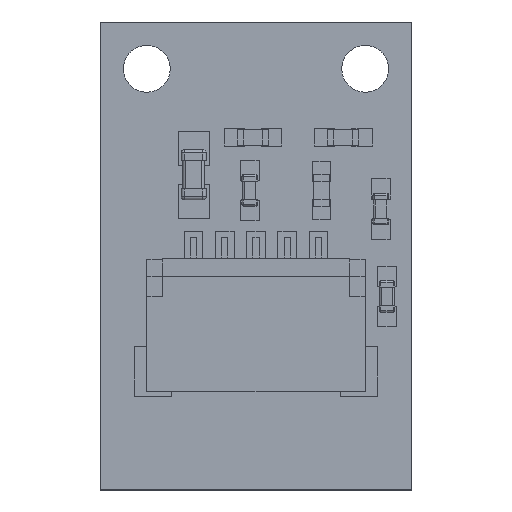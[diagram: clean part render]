
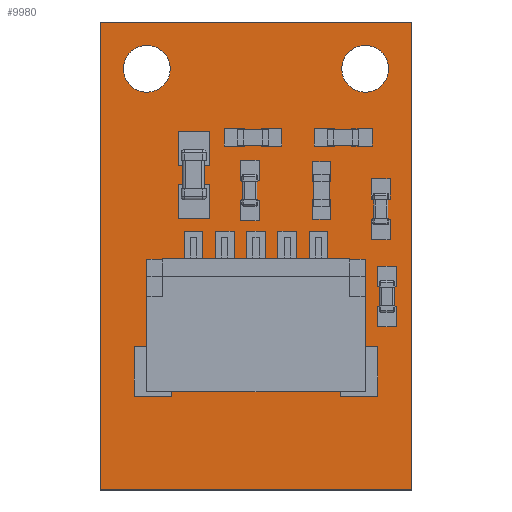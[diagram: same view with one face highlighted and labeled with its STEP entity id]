
A CAD part, top view. The second image highlights one B-rep face of the part: STEP entity #9980.
In plain terms, the highlighted planar face has unit normal (0, 0, 1).
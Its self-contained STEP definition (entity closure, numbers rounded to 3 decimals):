
#9504 = VERTEX_POINT('',#9505);
#9505 = CARTESIAN_POINT('',(15.,5.,0.6));
#9512 = PLANE('',#9513);
#9513 = AXIS2_PLACEMENT_3D('',#9514,#9515,#9516);
#9514 = CARTESIAN_POINT('',(15.,5.,0.));
#9515 = DIRECTION('',(0.,1.,0.));
#9516 = DIRECTION('',(1.,0.,0.));
#9524 = PLANE('',#9525);
#9525 = AXIS2_PLACEMENT_3D('',#9526,#9527,#9528);
#9526 = CARTESIAN_POINT('',(15.,20.,0.));
#9527 = DIRECTION('',(1.,0.,0.));
#9528 = DIRECTION('',(0.,-1.,0.));
#9536 = EDGE_CURVE('',#9504,#9537,#9539,.T.);
#9537 = VERTEX_POINT('',#9538);
#9538 = CARTESIAN_POINT('',(25.,5.,0.6));
#9539 = SURFACE_CURVE('',#9540,(#9544,#9551),.PCURVE_S1.);
#9540 = LINE('',#9541,#9542);
#9541 = CARTESIAN_POINT('',(15.,5.,0.6));
#9542 = VECTOR('',#9543,1.);
#9543 = DIRECTION('',(1.,0.,0.));
#9544 = PCURVE('',#9512,#9545);
#9545 = DEFINITIONAL_REPRESENTATION('',(#9546),#9550);
#9546 = LINE('',#9547,#9548);
#9547 = CARTESIAN_POINT('',(0.,-0.6));
#9548 = VECTOR('',#9549,1.);
#9549 = DIRECTION('',(1.,0.));
#9550 = ( GEOMETRIC_REPRESENTATION_CONTEXT(2) 
PARAMETRIC_REPRESENTATION_CONTEXT() REPRESENTATION_CONTEXT('2D SPACE',''
  ) );
#9551 = PCURVE('',#9552,#9557);
#9552 = PLANE('',#9553);
#9553 = AXIS2_PLACEMENT_3D('',#9554,#9555,#9556);
#9554 = CARTESIAN_POINT('',(20.,12.5,0.6));
#9555 = DIRECTION('',(0.,0.,1.));
#9556 = DIRECTION('',(1.,0.,-0.));
#9557 = DEFINITIONAL_REPRESENTATION('',(#9558),#9562);
#9558 = LINE('',#9559,#9560);
#9559 = CARTESIAN_POINT('',(-5.,-7.5));
#9560 = VECTOR('',#9561,1.);
#9561 = DIRECTION('',(1.,0.));
#9562 = ( GEOMETRIC_REPRESENTATION_CONTEXT(2) 
PARAMETRIC_REPRESENTATION_CONTEXT() REPRESENTATION_CONTEXT('2D SPACE',''
  ) );
#9580 = PLANE('',#9581);
#9581 = AXIS2_PLACEMENT_3D('',#9582,#9583,#9584);
#9582 = CARTESIAN_POINT('',(25.,5.,0.));
#9583 = DIRECTION('',(-1.,0.,0.));
#9584 = DIRECTION('',(0.,1.,0.));
#9624 = VERTEX_POINT('',#9625);
#9625 = CARTESIAN_POINT('',(15.,20.,0.6));
#9639 = PLANE('',#9640);
#9640 = AXIS2_PLACEMENT_3D('',#9641,#9642,#9643);
#9641 = CARTESIAN_POINT('',(25.,20.,0.));
#9642 = DIRECTION('',(0.,-1.,0.));
#9643 = DIRECTION('',(-1.,0.,0.));
#9651 = EDGE_CURVE('',#9624,#9504,#9652,.T.);
#9652 = SURFACE_CURVE('',#9653,(#9657,#9664),.PCURVE_S1.);
#9653 = LINE('',#9654,#9655);
#9654 = CARTESIAN_POINT('',(15.,20.,0.6));
#9655 = VECTOR('',#9656,1.);
#9656 = DIRECTION('',(0.,-1.,0.));
#9657 = PCURVE('',#9524,#9658);
#9658 = DEFINITIONAL_REPRESENTATION('',(#9659),#9663);
#9659 = LINE('',#9660,#9661);
#9660 = CARTESIAN_POINT('',(0.,-0.6));
#9661 = VECTOR('',#9662,1.);
#9662 = DIRECTION('',(1.,0.));
#9663 = ( GEOMETRIC_REPRESENTATION_CONTEXT(2) 
PARAMETRIC_REPRESENTATION_CONTEXT() REPRESENTATION_CONTEXT('2D SPACE',''
  ) );
#9664 = PCURVE('',#9552,#9665);
#9665 = DEFINITIONAL_REPRESENTATION('',(#9666),#9670);
#9666 = LINE('',#9667,#9668);
#9667 = CARTESIAN_POINT('',(-5.,7.5));
#9668 = VECTOR('',#9669,1.);
#9669 = DIRECTION('',(0.,-1.));
#9670 = ( GEOMETRIC_REPRESENTATION_CONTEXT(2) 
PARAMETRIC_REPRESENTATION_CONTEXT() REPRESENTATION_CONTEXT('2D SPACE',''
  ) );
#9698 = EDGE_CURVE('',#9537,#9699,#9701,.T.);
#9699 = VERTEX_POINT('',#9700);
#9700 = CARTESIAN_POINT('',(25.,20.,0.6));
#9701 = SURFACE_CURVE('',#9702,(#9706,#9713),.PCURVE_S1.);
#9702 = LINE('',#9703,#9704);
#9703 = CARTESIAN_POINT('',(25.,5.,0.6));
#9704 = VECTOR('',#9705,1.);
#9705 = DIRECTION('',(0.,1.,0.));
#9706 = PCURVE('',#9580,#9707);
#9707 = DEFINITIONAL_REPRESENTATION('',(#9708),#9712);
#9708 = LINE('',#9709,#9710);
#9709 = CARTESIAN_POINT('',(0.,-0.6));
#9710 = VECTOR('',#9711,1.);
#9711 = DIRECTION('',(1.,0.));
#9712 = ( GEOMETRIC_REPRESENTATION_CONTEXT(2) 
PARAMETRIC_REPRESENTATION_CONTEXT() REPRESENTATION_CONTEXT('2D SPACE',''
  ) );
#9713 = PCURVE('',#9552,#9714);
#9714 = DEFINITIONAL_REPRESENTATION('',(#9715),#9719);
#9715 = LINE('',#9716,#9717);
#9716 = CARTESIAN_POINT('',(5.,-7.5));
#9717 = VECTOR('',#9718,1.);
#9718 = DIRECTION('',(0.,1.));
#9719 = ( GEOMETRIC_REPRESENTATION_CONTEXT(2) 
PARAMETRIC_REPRESENTATION_CONTEXT() REPRESENTATION_CONTEXT('2D SPACE',''
  ) );
#9769 = EDGE_CURVE('',#9699,#9624,#9770,.T.);
#9770 = SURFACE_CURVE('',#9771,(#9775,#9782),.PCURVE_S1.);
#9771 = LINE('',#9772,#9773);
#9772 = CARTESIAN_POINT('',(25.,20.,0.6));
#9773 = VECTOR('',#9774,1.);
#9774 = DIRECTION('',(-1.,0.,0.));
#9775 = PCURVE('',#9639,#9776);
#9776 = DEFINITIONAL_REPRESENTATION('',(#9777),#9781);
#9777 = LINE('',#9778,#9779);
#9778 = CARTESIAN_POINT('',(0.,-0.6));
#9779 = VECTOR('',#9780,1.);
#9780 = DIRECTION('',(1.,0.));
#9781 = ( GEOMETRIC_REPRESENTATION_CONTEXT(2) 
PARAMETRIC_REPRESENTATION_CONTEXT() REPRESENTATION_CONTEXT('2D SPACE',''
  ) );
#9782 = PCURVE('',#9552,#9783);
#9783 = DEFINITIONAL_REPRESENTATION('',(#9784),#9788);
#9784 = LINE('',#9785,#9786);
#9785 = CARTESIAN_POINT('',(5.,7.5));
#9786 = VECTOR('',#9787,1.);
#9787 = DIRECTION('',(-1.,0.));
#9788 = ( GEOMETRIC_REPRESENTATION_CONTEXT(2) 
PARAMETRIC_REPRESENTATION_CONTEXT() REPRESENTATION_CONTEXT('2D SPACE',''
  ) );
#9825 = CYLINDRICAL_SURFACE('',#9826,0.751);
#9826 = AXIS2_PLACEMENT_3D('',#9827,#9828,#9829);
#9827 = CARTESIAN_POINT('',(16.5,18.5,0.));
#9828 = DIRECTION('',(-0.,-0.,-1.));
#9829 = DIRECTION('',(1.,0.,0.));
#9845 = VERTEX_POINT('',#9846);
#9846 = CARTESIAN_POINT('',(17.251,18.5,0.6));
#9867 = EDGE_CURVE('',#9845,#9845,#9868,.T.);
#9868 = SURFACE_CURVE('',#9869,(#9874,#9881),.PCURVE_S1.);
#9869 = CIRCLE('',#9870,0.751);
#9870 = AXIS2_PLACEMENT_3D('',#9871,#9872,#9873);
#9871 = CARTESIAN_POINT('',(16.5,18.5,0.6));
#9872 = DIRECTION('',(0.,0.,1.));
#9873 = DIRECTION('',(1.,0.,-0.));
#9874 = PCURVE('',#9825,#9875);
#9875 = DEFINITIONAL_REPRESENTATION('',(#9876),#9880);
#9876 = LINE('',#9877,#9878);
#9877 = CARTESIAN_POINT('',(6.283,-0.6));
#9878 = VECTOR('',#9879,1.);
#9879 = DIRECTION('',(-1.,0.));
#9880 = ( GEOMETRIC_REPRESENTATION_CONTEXT(2) 
PARAMETRIC_REPRESENTATION_CONTEXT() REPRESENTATION_CONTEXT('2D SPACE',''
  ) );
#9881 = PCURVE('',#9552,#9882);
#9882 = DEFINITIONAL_REPRESENTATION('',(#9883),#9887);
#9883 = CIRCLE('',#9884,0.751);
#9884 = AXIS2_PLACEMENT_2D('',#9885,#9886);
#9885 = CARTESIAN_POINT('',(-3.5,6.));
#9886 = DIRECTION('',(1.,0.));
#9887 = ( GEOMETRIC_REPRESENTATION_CONTEXT(2) 
PARAMETRIC_REPRESENTATION_CONTEXT() REPRESENTATION_CONTEXT('2D SPACE',''
  ) );
#9903 = CYLINDRICAL_SURFACE('',#9904,0.751);
#9904 = AXIS2_PLACEMENT_3D('',#9905,#9906,#9907);
#9905 = CARTESIAN_POINT('',(23.5,18.5,0.));
#9906 = DIRECTION('',(-0.,-0.,-1.));
#9907 = DIRECTION('',(1.,0.,0.));
#9923 = VERTEX_POINT('',#9924);
#9924 = CARTESIAN_POINT('',(24.251,18.5,0.6));
#9945 = EDGE_CURVE('',#9923,#9923,#9946,.T.);
#9946 = SURFACE_CURVE('',#9947,(#9952,#9959),.PCURVE_S1.);
#9947 = CIRCLE('',#9948,0.751);
#9948 = AXIS2_PLACEMENT_3D('',#9949,#9950,#9951);
#9949 = CARTESIAN_POINT('',(23.5,18.5,0.6));
#9950 = DIRECTION('',(0.,0.,1.));
#9951 = DIRECTION('',(1.,0.,-0.));
#9952 = PCURVE('',#9903,#9953);
#9953 = DEFINITIONAL_REPRESENTATION('',(#9954),#9958);
#9954 = LINE('',#9955,#9956);
#9955 = CARTESIAN_POINT('',(6.283,-0.6));
#9956 = VECTOR('',#9957,1.);
#9957 = DIRECTION('',(-1.,0.));
#9958 = ( GEOMETRIC_REPRESENTATION_CONTEXT(2) 
PARAMETRIC_REPRESENTATION_CONTEXT() REPRESENTATION_CONTEXT('2D SPACE',''
  ) );
#9959 = PCURVE('',#9552,#9960);
#9960 = DEFINITIONAL_REPRESENTATION('',(#9961),#9965);
#9961 = CIRCLE('',#9962,0.751);
#9962 = AXIS2_PLACEMENT_2D('',#9963,#9964);
#9963 = CARTESIAN_POINT('',(3.5,6.));
#9964 = DIRECTION('',(1.,0.));
#9965 = ( GEOMETRIC_REPRESENTATION_CONTEXT(2) 
PARAMETRIC_REPRESENTATION_CONTEXT() REPRESENTATION_CONTEXT('2D SPACE',''
  ) );
#9980 = ADVANCED_FACE('',(#9981,#9987,#9990),#9552,.T.);
#9981 = FACE_BOUND('',#9982,.T.);
#9982 = EDGE_LOOP('',(#9983,#9984,#9985,#9986));
#9983 = ORIENTED_EDGE('',*,*,#9536,.T.);
#9984 = ORIENTED_EDGE('',*,*,#9698,.T.);
#9985 = ORIENTED_EDGE('',*,*,#9769,.T.);
#9986 = ORIENTED_EDGE('',*,*,#9651,.T.);
#9987 = FACE_BOUND('',#9988,.T.);
#9988 = EDGE_LOOP('',(#9989));
#9989 = ORIENTED_EDGE('',*,*,#9867,.F.);
#9990 = FACE_BOUND('',#9991,.T.);
#9991 = EDGE_LOOP('',(#9992));
#9992 = ORIENTED_EDGE('',*,*,#9945,.F.);
